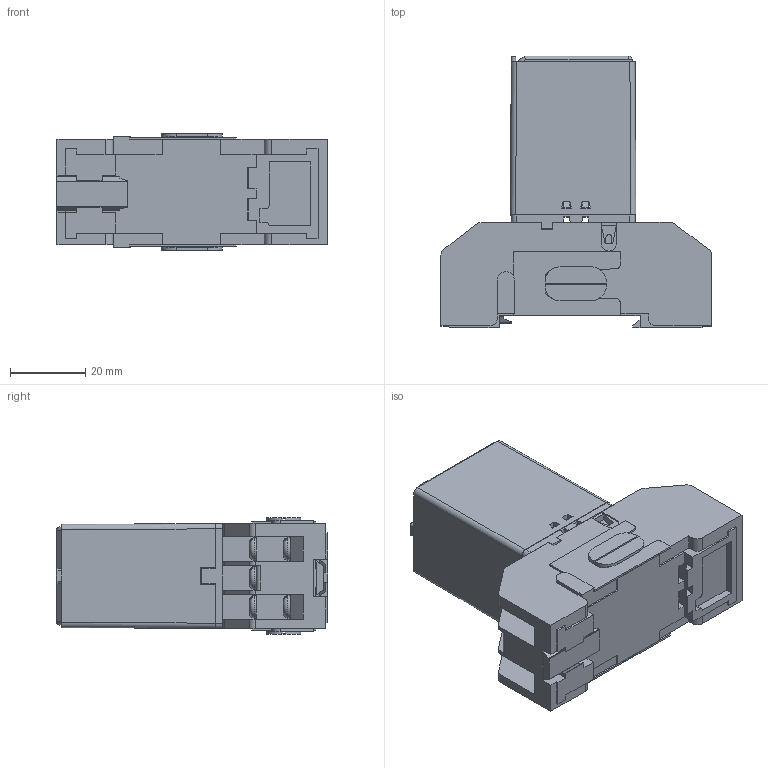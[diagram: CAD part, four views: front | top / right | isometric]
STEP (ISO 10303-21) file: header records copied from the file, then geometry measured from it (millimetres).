
FILE_DESCRIPTION(('STEP AP214'), '1');
FILE_NAME('Êîëîäêà ÐÏ21-003 òèï 2', '', ('UNSPECIFIED'), ('UNSPECIFIED'), 'ASCON STEP Converter 1.6', 'ASCON Math Kernel', '');
FILE_SCHEMA(('AUTOMOTIVE_DESIGN { 1 0 10303 214 3 1 1}'));
Length unit declared in the file: millimetre
Assembly tree (18 placements, depth 3):
  (unnamed)
    (unnamed)
    (unnamed)  x11
      (unnamed)
      (unnamed)
    (unnamed)  x2
    (unnamed)
    (unnamed)
Bounding box: 72.1 x 72.32 x 31 mm (x, y, z)
Volume: 52526.2 mm3; surface area: 33238.9 mm2
Topology: 27 solids, 27 shells, 1313 faces, 3453 edges, 2263 vertices
Faces by surface type: plane 1047, cylinder 230, torus 13, cone 13, bspline 8, sphere 2
Full cylindrical faces by diameter (mm): 1 x5, 2.5 x2, 2.85 x11, 2.9 x2, 3 x11, 3.2 x1, 4.5 x2, 6 x13
Entity records: 45246 total; most frequent: CARTESIAN_POINT 6937, ORIENTED_EDGE 6048, DIRECTION 5700, EDGE_CURVE 3024, LINE 2576, VECTOR 2576, VERTEX_POINT 1999, AXIS2_PLACEMENT_3D 1562
